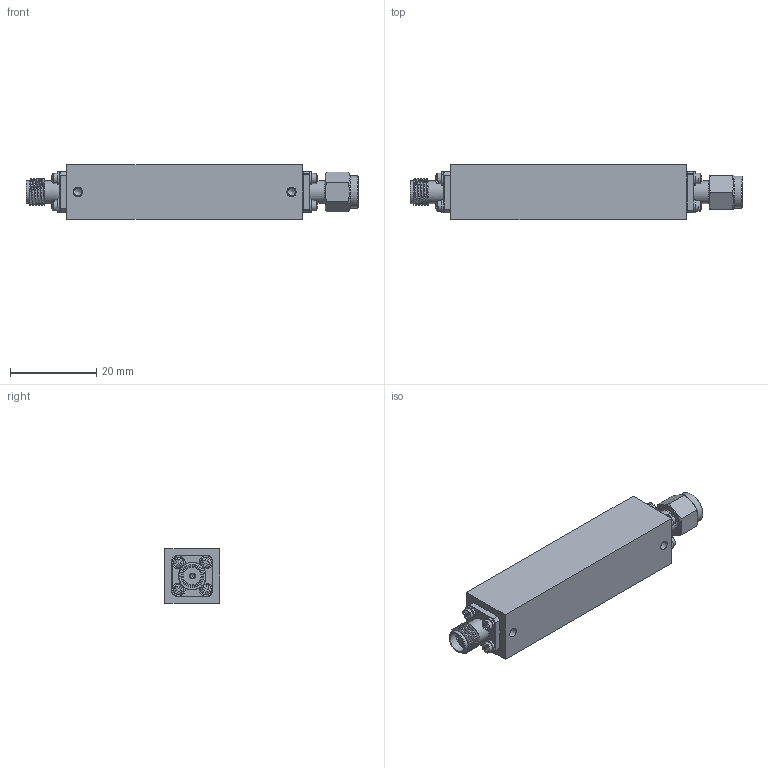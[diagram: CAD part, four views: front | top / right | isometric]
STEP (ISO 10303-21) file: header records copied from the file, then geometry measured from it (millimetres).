
FILE_DESCRIPTION (( 'STEP AP214' ), '1' );
FILE_NAME ('7CL10R15-700-CD-SMF.STEP', '2026-01-23T15:49:38', ( '' ), ( '' ), 'SwSTEP 2.0', 'SolidWorks 2025', '' );
FILE_SCHEMA (( 'AUTOMOTIVE_DESIGN' ));
Length unit declared in the file: inch
Products named in the file (1): 7CL10R15-700-CD-SMF
Bounding box: 76.91 x 12.83 x 12.7 mm (x, y, z)
Volume: 9770.9 mm3; surface area: 6183.6 mm2
Topology: 20 solids, 20 shells, 615 faces, 2099 edges, 1647 vertices
Faces by surface type: plane 326, cylinder 136, torus 60, sphere 44, cone 26, bspline 23
Full cylindrical faces by diameter (mm): 0.305 x2, 0.381 x1, 0.508 x1, 0.635 x1, 0.762 x1, 0.902 x1, 1.016 x1, 1.27 x1, 1.524 x8, 1.702 x4, 1.727 x4, 1.778 x2, 1.943 x1, 2.184 x2, 2.438 x8, 3.302 x1, 4.191 x2, 4.572 x1, 4.592 x1, 4.597 x1, 5.283 x8, 6.35 x2, 6.604 x1, 7.493 x1
Entity records: 33819 total; most frequent: CARTESIAN_POINT 10460, ORIENTED_EDGE 3840, DIRECTION 3240, EDGE_CURVE 1920, VERTEX_POINT 1615, AXIS2_PLACEMENT_3D 1122, VECTOR 996, LINE 996
